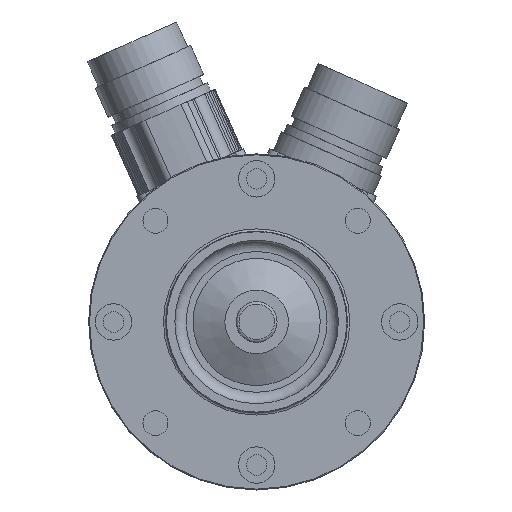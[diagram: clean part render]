
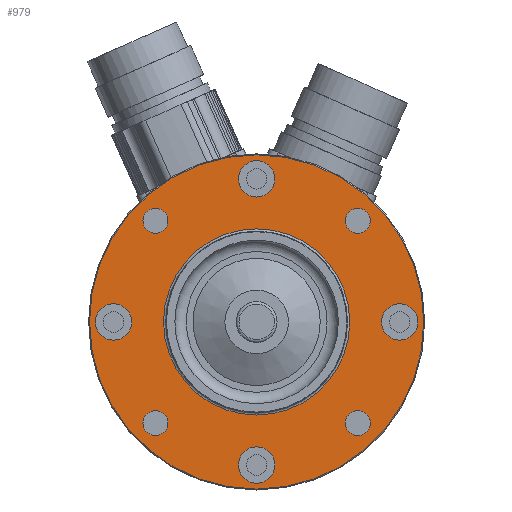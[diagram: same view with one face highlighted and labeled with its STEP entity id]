
A CAD part, front view. The second image highlights one B-rep face of the part: STEP entity #979.
In plain terms, the highlighted planar face has unit normal (0, -1, 0).
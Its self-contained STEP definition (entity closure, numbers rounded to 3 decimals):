
#388=PLANE('',#6124);
#507=FACE_BOUND('',#1870,.T.);
#508=FACE_BOUND('',#1871,.T.);
#509=FACE_BOUND('',#1872,.T.);
#510=FACE_BOUND('',#1873,.T.);
#511=FACE_BOUND('',#1874,.T.);
#512=FACE_BOUND('',#1875,.T.);
#513=FACE_BOUND('',#1876,.T.);
#514=FACE_BOUND('',#1877,.T.);
#515=FACE_BOUND('',#1879,.T.);
#979=ADVANCED_FACE('',(#507,#508,#509,#510,#511,#512,#513,#514,#1593,#515),
#388,.T.);
#1593=FACE_OUTER_BOUND('',#1878,.T.);
#1870=EDGE_LOOP('',(#3113));
#1871=EDGE_LOOP('',(#3114));
#1872=EDGE_LOOP('',(#3115));
#1873=EDGE_LOOP('',(#3116));
#1874=EDGE_LOOP('',(#3117));
#1875=EDGE_LOOP('',(#3118));
#1876=EDGE_LOOP('',(#3119));
#1877=EDGE_LOOP('',(#3120));
#1878=EDGE_LOOP('',(#3121));
#1879=EDGE_LOOP('',(#3122));
#2605=CIRCLE('',#6114,4.);
#2606=CIRCLE('',#6115,4.);
#2607=CIRCLE('',#6116,4.);
#2608=CIRCLE('',#6117,4.);
#2609=CIRCLE('',#6118,2.75);
#2610=CIRCLE('',#6119,2.75);
#2611=CIRCLE('',#6120,2.75);
#2612=CIRCLE('',#6121,2.75);
#2613=CIRCLE('',#6122,36.8);
#2614=CIRCLE('',#6123,20.5);
#3113=ORIENTED_EDGE('',*,*,#5057,.T.);
#3114=ORIENTED_EDGE('',*,*,#5058,.T.);
#3115=ORIENTED_EDGE('',*,*,#5059,.T.);
#3116=ORIENTED_EDGE('',*,*,#5060,.T.);
#3117=ORIENTED_EDGE('',*,*,#5061,.T.);
#3118=ORIENTED_EDGE('',*,*,#5062,.T.);
#3119=ORIENTED_EDGE('',*,*,#5063,.T.);
#3120=ORIENTED_EDGE('',*,*,#5064,.T.);
#3121=ORIENTED_EDGE('',*,*,#5065,.T.);
#3122=ORIENTED_EDGE('',*,*,#5066,.T.);
#4485=VERTEX_POINT('',#9073);
#4486=VERTEX_POINT('',#9075);
#4487=VERTEX_POINT('',#9077);
#4488=VERTEX_POINT('',#9079);
#4489=VERTEX_POINT('',#9081);
#4490=VERTEX_POINT('',#9083);
#4491=VERTEX_POINT('',#9085);
#4492=VERTEX_POINT('',#9087);
#4493=VERTEX_POINT('',#9089);
#4494=VERTEX_POINT('',#9091);
#5057=EDGE_CURVE('',#4485,#4485,#2605,.T.);
#5058=EDGE_CURVE('',#4486,#4486,#2606,.T.);
#5059=EDGE_CURVE('',#4487,#4487,#2607,.T.);
#5060=EDGE_CURVE('',#4488,#4488,#2608,.T.);
#5061=EDGE_CURVE('',#4489,#4489,#2609,.T.);
#5062=EDGE_CURVE('',#4490,#4490,#2610,.T.);
#5063=EDGE_CURVE('',#4491,#4491,#2611,.T.);
#5064=EDGE_CURVE('',#4492,#4492,#2612,.T.);
#5065=EDGE_CURVE('',#4493,#4493,#2613,.T.);
#5066=EDGE_CURVE('',#4494,#4494,#2614,.T.);
#6114=AXIS2_PLACEMENT_3D('',#9072,#7061,#7062);
#6115=AXIS2_PLACEMENT_3D('',#9074,#7063,#7064);
#6116=AXIS2_PLACEMENT_3D('',#9076,#7065,#7066);
#6117=AXIS2_PLACEMENT_3D('',#9078,#7067,#7068);
#6118=AXIS2_PLACEMENT_3D('',#9080,#7069,#7070);
#6119=AXIS2_PLACEMENT_3D('',#9082,#7071,#7072);
#6120=AXIS2_PLACEMENT_3D('',#9084,#7073,#7074);
#6121=AXIS2_PLACEMENT_3D('',#9086,#7075,#7076);
#6122=AXIS2_PLACEMENT_3D('',#9088,#7077,#7078);
#6123=AXIS2_PLACEMENT_3D('',#9090,#7079,#7080);
#6124=AXIS2_PLACEMENT_3D('',#9092,#7081,#7082);
#7061=DIRECTION('',(0.,1.,0.));
#7062=DIRECTION('',(-1.,0.,0.));
#7063=DIRECTION('',(0.,1.,0.));
#7064=DIRECTION('',(0.,0.,-1.));
#7065=DIRECTION('',(0.,1.,0.));
#7066=DIRECTION('',(1.,0.,0.));
#7067=DIRECTION('',(0.,1.,0.));
#7068=DIRECTION('',(0.,0.,1.));
#7069=DIRECTION('',(0.,1.,0.));
#7070=DIRECTION('',(-1.,0.,0.));
#7071=DIRECTION('',(0.,1.,0.));
#7072=DIRECTION('',(0.,0.,-1.));
#7073=DIRECTION('',(0.,1.,0.));
#7074=DIRECTION('',(1.,0.,0.));
#7075=DIRECTION('',(0.,1.,0.));
#7076=DIRECTION('',(0.,0.,1.));
#7077=DIRECTION('',(0.,-1.,0.));
#7078=DIRECTION('',(0.,0.,-1.));
#7079=DIRECTION('',(0.,1.,0.));
#7080=DIRECTION('',(0.,0.,-1.));
#7081=DIRECTION('',(0.,-1.,0.));
#7082=DIRECTION('',(0.,0.,-1.));
#9072=CARTESIAN_POINT('',(-31.5,0.,0.));
#9073=CARTESIAN_POINT('',(-35.5,0.,0.));
#9074=CARTESIAN_POINT('',(0.,0.,-31.5));
#9075=CARTESIAN_POINT('',(0.,0.,-35.5));
#9076=CARTESIAN_POINT('',(31.5,0.,0.));
#9077=CARTESIAN_POINT('',(35.5,0.,0.));
#9078=CARTESIAN_POINT('',(0.,0.,31.5));
#9079=CARTESIAN_POINT('',(0.,0.,35.5));
#9080=CARTESIAN_POINT('',(-22.274,0.,-22.274));
#9081=CARTESIAN_POINT('',(-25.024,0.,-22.274));
#9082=CARTESIAN_POINT('',(22.274,0.,-22.274));
#9083=CARTESIAN_POINT('',(22.274,0.,-25.024));
#9084=CARTESIAN_POINT('',(22.274,0.,22.274));
#9085=CARTESIAN_POINT('',(25.024,0.,22.274));
#9086=CARTESIAN_POINT('',(-22.274,0.,22.274));
#9087=CARTESIAN_POINT('',(-22.274,0.,25.024));
#9088=CARTESIAN_POINT('',(0.,0.,0.));
#9089=CARTESIAN_POINT('',(0.,0.,-36.8));
#9090=CARTESIAN_POINT('',(0.,0.,0.));
#9091=CARTESIAN_POINT('',(0.,0.,-20.5));
#9092=CARTESIAN_POINT('',(0.,0.,0.));
